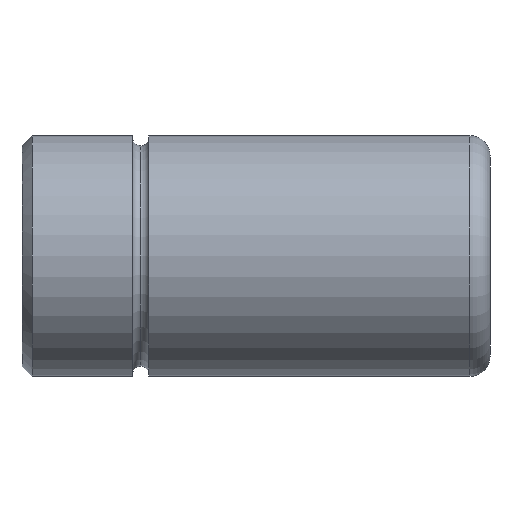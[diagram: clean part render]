
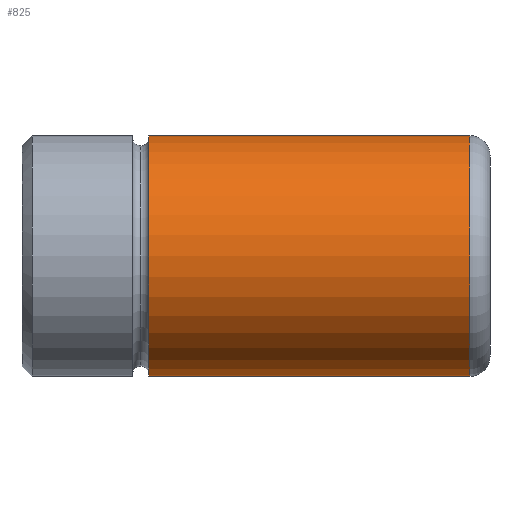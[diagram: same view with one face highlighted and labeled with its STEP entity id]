
A CAD part, front view. The second image highlights one B-rep face of the part: STEP entity #825.
In plain terms, the highlighted cylindrical face has radius 18 mm (diameter 36 mm), a partial arc.
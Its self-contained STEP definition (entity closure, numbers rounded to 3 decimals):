
#641=CARTESIAN_POINT('Vertex',(18.975,0.,18.)) ;
#648=CARTESIAN_POINT('Vertex',(18.975,0.,-18.)) ;
#674=CARTESIAN_POINT('Axis2P3D Location',(18.975,0.,0.)) ;
#678=CARTESIAN_POINT('Vertex',(18.975,-18.,0.)) ;
#681=CARTESIAN_POINT('Axis2P3D Location',(18.975,0.,0.)) ;
#765=CARTESIAN_POINT('Line Origine',(70.,0.,18.)) ;
#769=CARTESIAN_POINT('Vertex',(67.,0.,18.)) ;
#783=CARTESIAN_POINT('Vertex',(67.,0.,-18.)) ;
#786=CARTESIAN_POINT('Line Origine',(70.,0.,-18.)) ;
#800=CARTESIAN_POINT('Axis2P3D Location',(70.,0.,0.)) ;
#805=CARTESIAN_POINT('Axis2P3D Location',(67.,0.,0.)) ;
#809=CARTESIAN_POINT('Vertex',(67.,-18.,0.)) ;
#812=CARTESIAN_POINT('Axis2P3D Location',(67.,0.,0.)) ;
#675=DIRECTION('Axis2P3D Direction',(1.,0.,-0.)) ;
#682=DIRECTION('Axis2P3D Direction',(1.,0.,-0.)) ;
#766=DIRECTION('Vector Direction',(-1.,0.,0.)) ;
#787=DIRECTION('Vector Direction',(-1.,0.,0.)) ;
#801=DIRECTION('Axis2P3D Direction',(-1.,-0.,-0.)) ;
#802=DIRECTION('Axis2P3D XDirection',(0.,0.,-1.)) ;
#806=DIRECTION('Axis2P3D Direction',(-1.,-0.,-0.)) ;
#813=DIRECTION('Axis2P3D Direction',(-1.,-0.,-0.)) ;
#676=AXIS2_PLACEMENT_3D('Circle Axis2P3D',#674,#675,$) ;
#683=AXIS2_PLACEMENT_3D('Circle Axis2P3D',#681,#682,$) ;
#803=AXIS2_PLACEMENT_3D('Cylinder Axis2P3D',#800,#801,#802) ;
#807=AXIS2_PLACEMENT_3D('Circle Axis2P3D',#805,#806,$) ;
#814=AXIS2_PLACEMENT_3D('Circle Axis2P3D',#812,#813,$) ;
#818=ORIENTED_EDGE('',*,*,#790,.T.) ;
#819=ORIENTED_EDGE('',*,*,#811,.F.) ;
#820=ORIENTED_EDGE('',*,*,#816,.F.) ;
#821=ORIENTED_EDGE('',*,*,#771,.T.) ;
#822=ORIENTED_EDGE('',*,*,#685,.T.) ;
#823=ORIENTED_EDGE('',*,*,#680,.T.) ;
#767=VECTOR('Line Direction',#766,1.) ;
#788=VECTOR('Line Direction',#787,1.) ;
#825=ADVANCED_FACE('348-25 x 70',(#824),#804,.T.) ;
#677=CIRCLE('generated circle',#676,18.) ;
#684=CIRCLE('generated circle',#683,18.) ;
#808=CIRCLE('generated circle',#807,18.) ;
#815=CIRCLE('generated circle',#814,18.) ;
#804=CYLINDRICAL_SURFACE('generated cylinder',#803,18.) ;
#680=EDGE_CURVE('',#679,#649,#677,.T.) ;
#685=EDGE_CURVE('',#642,#679,#684,.T.) ;
#771=EDGE_CURVE('',#770,#642,#768,.T.) ;
#790=EDGE_CURVE('',#649,#784,#789,.F.) ;
#811=EDGE_CURVE('',#810,#784,#808,.F.) ;
#816=EDGE_CURVE('',#770,#810,#815,.F.) ;
#817=EDGE_LOOP('',(#818,#819,#820,#821,#822,#823)) ;
#824=FACE_OUTER_BOUND('',#817,.T.) ;
#768=LINE('Line',#765,#767) ;
#789=LINE('Line',#786,#788) ;
#642=VERTEX_POINT('',#641) ;
#649=VERTEX_POINT('',#648) ;
#679=VERTEX_POINT('',#678) ;
#770=VERTEX_POINT('',#769) ;
#784=VERTEX_POINT('',#783) ;
#810=VERTEX_POINT('',#809) ;
